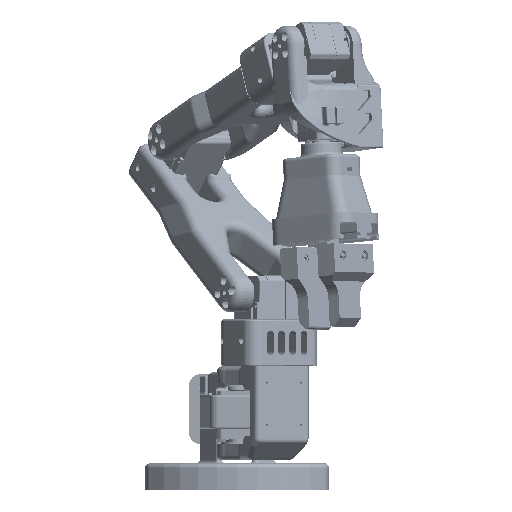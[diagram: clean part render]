
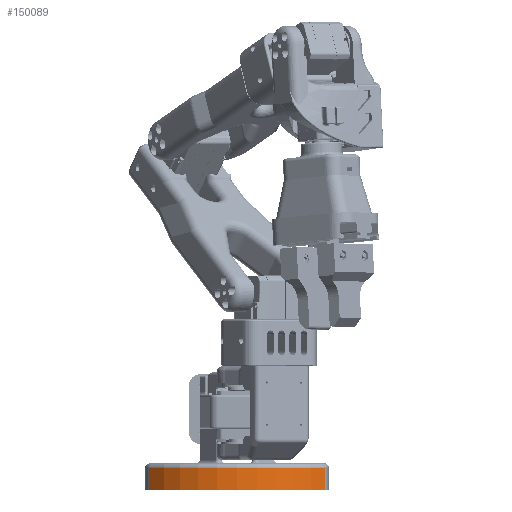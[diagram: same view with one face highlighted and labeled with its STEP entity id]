
A CAD part, front view. The second image highlights one B-rep face of the part: STEP entity #150089.
In plain terms, the highlighted cylindrical face has radius 70 mm (diameter 140 mm), a partial arc.
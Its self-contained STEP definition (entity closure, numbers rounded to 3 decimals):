
#9786=LINE('',#216917,#25203);
#9787=LINE('',#216921,#25204);
#25203=VECTOR('',#175059,10.);
#25204=VECTOR('',#175064,10.);
#40560=CYLINDRICAL_SURFACE('',#161628,70.);
#44983=FACE_OUTER_BOUND('',#53268,.T.);
#53268=EDGE_LOOP('',(#104676,#104677,#104678,#104679));
#62238=CIRCLE('',#161578,70.);
#62265=CIRCLE('',#161629,70.);
#66690=VERTEX_POINT('',#216716);
#66691=VERTEX_POINT('',#216720);
#66740=VERTEX_POINT('',#216915);
#66741=VERTEX_POINT('',#216919);
#81698=EDGE_CURVE('',#66690,#66691,#62238,.T.);
#81771=EDGE_CURVE('',#66740,#66690,#9786,.T.);
#81772=EDGE_CURVE('',#66741,#66740,#62265,.T.);
#81773=EDGE_CURVE('',#66691,#66741,#9787,.T.);
#104676=ORIENTED_EDGE('',*,*,#81698,.F.);
#104677=ORIENTED_EDGE('',*,*,#81771,.F.);
#104678=ORIENTED_EDGE('',*,*,#81772,.F.);
#104679=ORIENTED_EDGE('',*,*,#81773,.F.);
#150089=ADVANCED_FACE('',(#44983),#40560,.T.);
#161578=AXIS2_PLACEMENT_3D('',#216722,#174921,#174922);
#161628=AXIS2_PLACEMENT_3D('',#216918,#175060,#175061);
#161629=AXIS2_PLACEMENT_3D('',#216920,#175062,#175063);
#174921=DIRECTION('center_axis',(0.,1.,0.));
#174922=DIRECTION('ref_axis',(0.,0.,1.));
#175059=DIRECTION('',(0.,1.,0.));
#175060=DIRECTION('center_axis',(0.,1.,0.));
#175061=DIRECTION('ref_axis',(1.,0.,0.));
#175062=DIRECTION('center_axis',(0.,-1.,0.));
#175063=DIRECTION('ref_axis',(1.,0.,0.));
#175064=DIRECTION('',(0.,-1.,0.));
#216716=CARTESIAN_POINT('',(-52.5,14.4,46.301));
#216720=CARTESIAN_POINT('',(52.5,14.4,46.301));
#216722=CARTESIAN_POINT('Origin',(0.,14.4,
0.));
#216915=CARTESIAN_POINT('',(-52.5,1.4,46.301));
#216917=CARTESIAN_POINT('',(-52.5,1.4,46.301));
#216918=CARTESIAN_POINT('Origin',(0.,1.4,
0.));
#216919=CARTESIAN_POINT('',(52.5,1.4,46.301));
#216920=CARTESIAN_POINT('Origin',(0.,1.4,
0.));
#216921=CARTESIAN_POINT('',(52.5,1.4,46.301));
